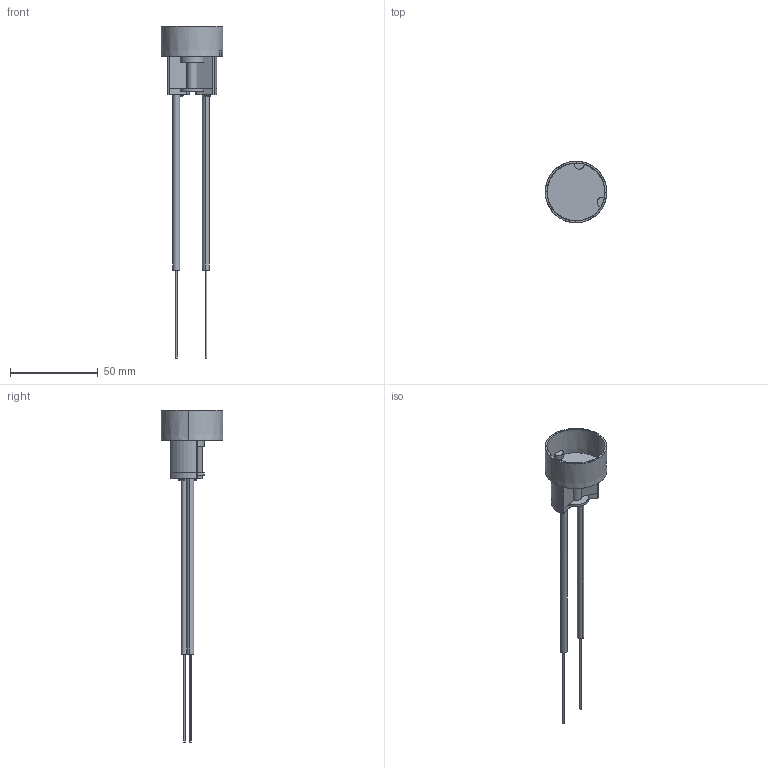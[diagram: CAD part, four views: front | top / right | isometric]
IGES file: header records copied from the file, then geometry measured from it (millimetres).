
Start section: SolidWorks IGES file using analytic representation for surfaces
Global section: file name: C:\Users\Toshiba\Desktop\FR-3PRO.IGS; native system: SolidWorks 2014; preprocessor: SolidWorks 2014; author: Toshiba; date: 160621.083428; units: metre
Bounding box: 35 x 35 x 188.7 mm (x, y, z)
Surface area: 12099 mm2 (no closed solid volume)
Topology: 0 solids, 0 shells, 157 faces, 2028 edges, 2028 vertices
Faces by surface type: bspline 84, revolution 73
